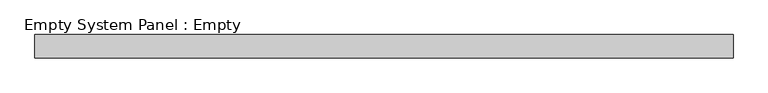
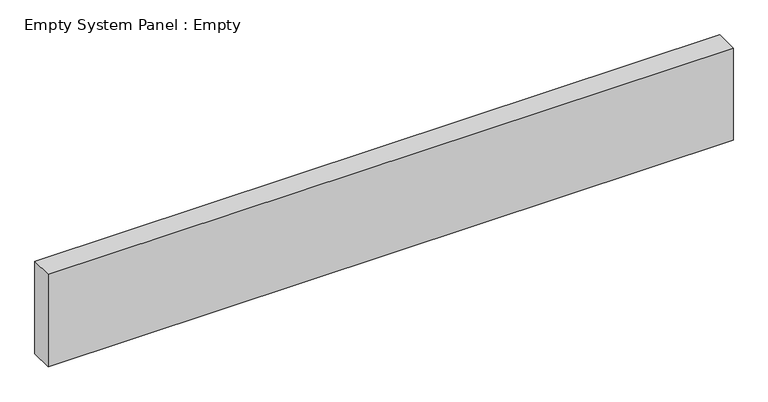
"""IFC4 building model written with IfcOpenShell, lengths in millimetres: plate geometry, Empty System Panel : Empty."""

from ifc_helpers import new_model, si_unit, origin, origin_with_axes, place, context, project, spatial, polyline, outline, extrude, source, transform, mapped, element, save


def empty_system_panel_empty_84209388(model_context):
    return source(origin(), model_context, "Body", "SweptSolid", [
        extrude(outline(polyline([(1500.0, -50.0), (-1500.0, -50.0), (-1500.0, 50.0), (1500.0, 50.0), (1500.0, -50.0)])), origin_with_axes(), (0.0, 0.0, 1.0), 427.2182541),
    ])


if __name__ == "__main__":
    model = new_model("IFC4")
    model_context = context("Model", 3, world=origin())
    ifc_project = project(units=[si_unit("LENGTHUNIT", "METRE", prefix="MILLI")], contexts=[model_context])
    site = spatial("IfcSite", under=ifc_project)
    building = spatial("IfcBuilding", under=site)
    placement = place(None, origin())
    empty_system_panel_empty_shape = empty_system_panel_empty_84209388(model_context)
    element("IfcPlate", 1, ObjectType="Empty System Panel : Empty", at=placement, inside=building, context=model_context, shape_type="MappedRepresentation", body=[
        mapped(empty_system_panel_empty_shape, transform((0.0, 0.0, 0.0), x_axis=(1.0, 0.0, 0.0), y_axis=(0.0, 1.0, 0.0), z_axis=(0.0, 0.0, 1.0))),
    ])
    save(model, "model.ifc")
